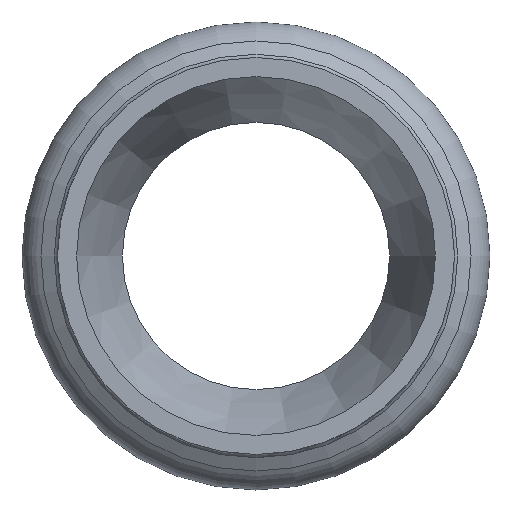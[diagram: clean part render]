
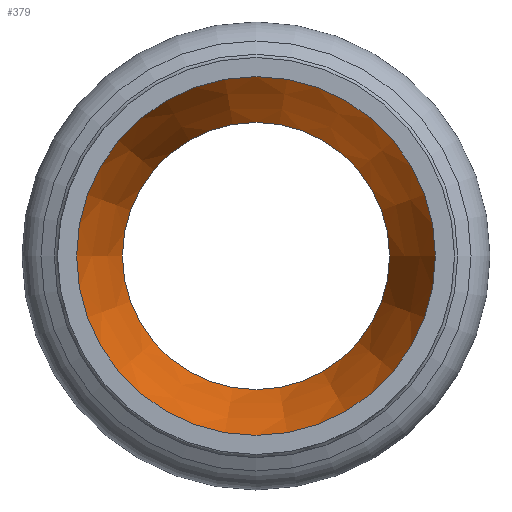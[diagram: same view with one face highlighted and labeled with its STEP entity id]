
A CAD part, left-side view. The second image highlights one B-rep face of the part: STEP entity #379.
In plain terms, the highlighted conical face has half-angle 19.998 degrees and reference radius 12.39 mm.
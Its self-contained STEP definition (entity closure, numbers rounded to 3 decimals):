
#348=CARTESIAN_POINT('',(-36.108,-10.5,0.));
#349=VERTEX_POINT('',#348);
#350=CARTESIAN_POINT('',(-36.108,0.,0.0));
#351=DIRECTION('',(1.0,0.0,0.0));
#352=DIRECTION('',(0.0,1.0,0.0));
#353=AXIS2_PLACEMENT_3D('',#350,#351,#352);
#354=CIRCLE('',#353,10.5);
#355=EDGE_CURVE('',#349,#349,#354,.T.);
#360=CARTESIAN_POINT('',(-41.303,0.,0.0));
#361=DIRECTION('',(-1.0,0.,0.0));
#362=DIRECTION('',(0.0,1.0,0.0));
#363=AXIS2_PLACEMENT_3D('',#360,#361,#362);
#364=CONICAL_SURFACE('',#363,12.39,19.998);
#365=ORIENTED_EDGE('',*,*,#355,.T.);
#366=EDGE_LOOP('',(#365));
#367=FACE_OUTER_BOUND('',#366,.T.);
#368=CARTESIAN_POINT('',(-46.,-14.1,0.));
#369=VERTEX_POINT('',#368);
#370=CARTESIAN_POINT('',(-46.,0.,0.0));
#371=DIRECTION('',(-1.0,0.0,0.0));
#372=DIRECTION('',(0.0,1.0,0.0));
#373=AXIS2_PLACEMENT_3D('',#370,#371,#372);
#374=CIRCLE('',#373,14.1);
#375=EDGE_CURVE('',#369,#369,#374,.F.);
#376=ORIENTED_EDGE('',*,*,#375,.F.);
#377=EDGE_LOOP('',(#376));
#378=FACE_BOUND('',#377,.T.);
#379=ADVANCED_FACE('',(#367,#378),#364,.F.);
